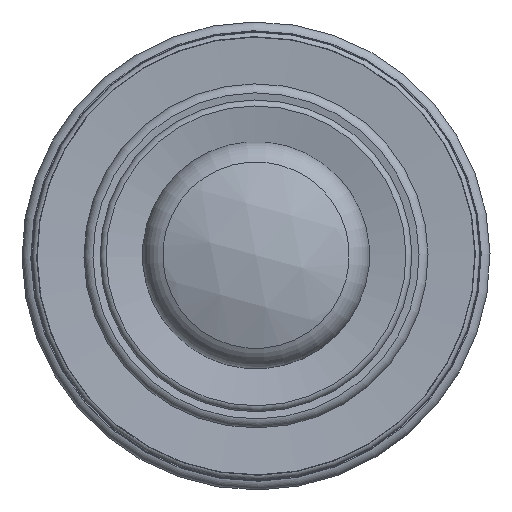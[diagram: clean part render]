
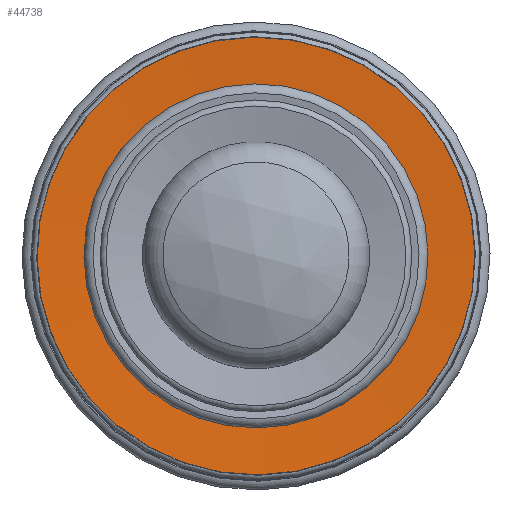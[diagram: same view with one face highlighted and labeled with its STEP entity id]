
A CAD part, top view. The second image highlights one B-rep face of the part: STEP entity #44738.
In plain terms, the highlighted conical face has half-angle 86.227 degrees and reference radius 28.341 mm.
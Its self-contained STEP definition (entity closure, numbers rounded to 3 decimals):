
#343=CONICAL_SURFACE('',#49050,28.341,1.505);
#3844=FACE_OUTER_BOUND('',#6422,.T.);
#6422=EDGE_LOOP('',(#36812,#36813,#36814,#36815,#36816,#36817));
#8969=CIRCLE('',#49047,31.801);
#8971=CIRCLE('',#49049,31.801);
#8972=CIRCLE('',#49051,24.882);
#8973=CIRCLE('',#49052,24.882);
#12698=LINE('',#80742,#15858);
#15858=VECTOR('',#60021,28.341);
#19795=VERTEX_POINT('',#80732);
#19796=VERTEX_POINT('',#80733);
#19797=VERTEX_POINT('',#80738);
#19798=VERTEX_POINT('',#80739);
#25650=EDGE_CURVE('',#19795,#19796,#8969,.T.);
#25652=EDGE_CURVE('',#19796,#19795,#8971,.T.);
#25653=EDGE_CURVE('',#19797,#19798,#8972,.T.);
#25654=EDGE_CURVE('',#19798,#19797,#8973,.T.);
#25655=EDGE_CURVE('',#19797,#19795,#12698,.T.);
#36812=ORIENTED_EDGE('',*,*,#25653,.T.);
#36813=ORIENTED_EDGE('',*,*,#25654,.T.);
#36814=ORIENTED_EDGE('',*,*,#25655,.T.);
#36815=ORIENTED_EDGE('',*,*,#25652,.F.);
#36816=ORIENTED_EDGE('',*,*,#25650,.F.);
#36817=ORIENTED_EDGE('',*,*,#25655,.F.);
#44738=ADVANCED_FACE('',(#3844),#343,.F.);
#49047=AXIS2_PLACEMENT_3D('',#80734,#60009,#60010);
#49049=AXIS2_PLACEMENT_3D('',#80736,#60013,#60014);
#49050=AXIS2_PLACEMENT_3D('',#80737,#60015,#60016);
#49051=AXIS2_PLACEMENT_3D('',#80740,#60017,#60018);
#49052=AXIS2_PLACEMENT_3D('',#80741,#60019,#60020);
#60009=DIRECTION('center_axis',(0.,0.,
-1.));
#60010=DIRECTION('ref_axis',(-0.861,-0.509,0.));
#60013=DIRECTION('center_axis',(0.,0.,
-1.));
#60014=DIRECTION('ref_axis',(-0.861,-0.509,0.));
#60015=DIRECTION('center_axis',(0.,0.,
1.));
#60016=DIRECTION('ref_axis',(-0.861,-0.509,0.));
#60017=DIRECTION('center_axis',(0.,0.,
-1.));
#60018=DIRECTION('ref_axis',(-0.861,-0.509,0.));
#60019=DIRECTION('center_axis',(0.,0.,
-1.));
#60020=DIRECTION('ref_axis',(-0.861,-0.509,0.));
#60021=DIRECTION('',(0.859,0.507,0.066));
#80732=CARTESIAN_POINT('',(27.321,16.173,10.027));
#80733=CARTESIAN_POINT('',(-16.233,27.381,10.027));
#80734=CARTESIAN_POINT('Origin',(-0.06,0.,
10.027));
#80736=CARTESIAN_POINT('Origin',(-0.06,0.,
10.027));
#80737=CARTESIAN_POINT('Origin',(-0.06,0.,
9.799));
#80738=CARTESIAN_POINT('',(21.363,12.654,9.571));
#80739=CARTESIAN_POINT('',(-12.714,21.423,9.571));
#80740=CARTESIAN_POINT('Origin',(-0.06,0.,
9.571));
#80741=CARTESIAN_POINT('Origin',(-0.06,0.,
9.571));
#80742=CARTESIAN_POINT('',(24.342,14.414,9.799));
